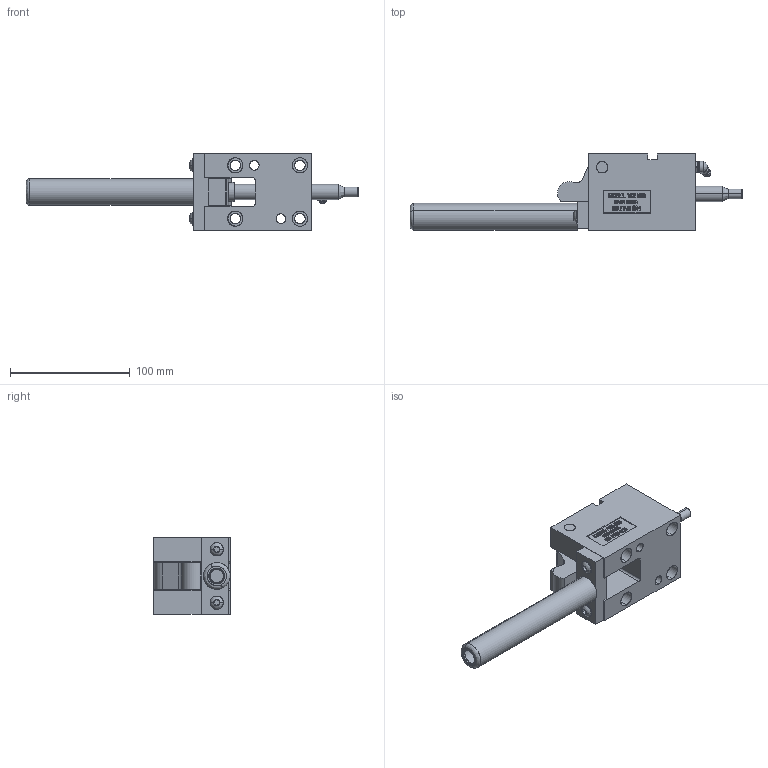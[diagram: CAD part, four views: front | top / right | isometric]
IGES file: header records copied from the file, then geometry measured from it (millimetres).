
Start section: SolidWorks IGES file using analytic representation for surfaces
Global section: file name: Y:\JIM'S INCH CAM UNITS\TOL50045\CLOSED\TOL50045-C.IGS; native system: SolidWorks 2006 by SolidWorks Corporation; preprocessor: SolidWorks 2006 by SolidWorks Corporation; author: Jim; date: 090211.143008; units: inch
Bounding box: 276.89 x 63.5 x 63.5 mm (x, y, z)
Surface area: 87103.3 mm2 (no closed solid volume)
Topology: 0 solids, 0 shells, 582 faces, 7257 edges, 7253 vertices
Faces by surface type: bspline 458, revolution 124
